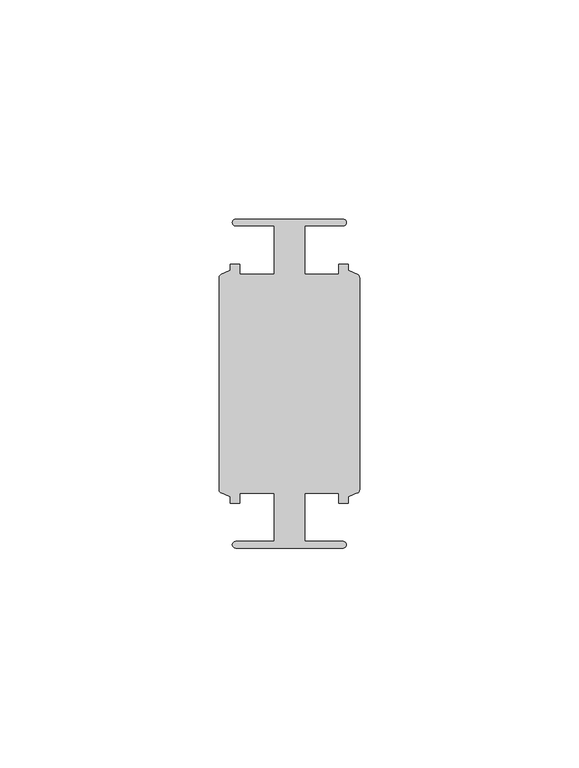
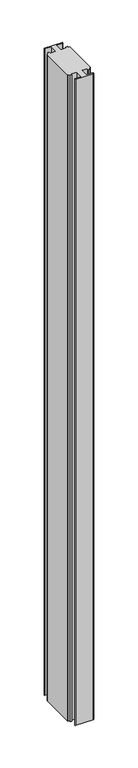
"""IFC4 building model written with IfcOpenShell, lengths in millimetres: member geometry, Прямоугольный импост : 4-AMG-2-Профиль 26Х75 Средний."""

from ifc_helpers import new_model, si_unit, point, frame, frame_2d, origin, place, context, project, spatial, polyline, circle_curve, trimmed, segment, composite_curve, outline, extrude, source, transform, mapped, element, save


def member_6ae3acd9(model_context):
    return source(origin(), model_context, "Body", "SweptSolid", [
        extrude(outline(composite_curve([segment(trimmed(circle_curve(frame_2d((12.2876562, 36.75)), 0.75), [point((12.2876562, 37.5))], [point((12.2876562, 36.0))], False, "CARTESIAN"), True, "CONTINUOUS"), segment(polyline([(12.2876562, 36.0), (3.5376562, 36.0), (3.5376562, 25.0), (11.2593767, 25.0), (11.2593767, 27.25), (13.4846403, 27.25), (13.4846403, 25.836597), (15.5572539, 24.9333875)]), True, "CONTINUOUS"), segment(trimmed(circle_curve(frame_2d((15.2376562, 24.2)), 0.8), [point((15.5572539, 24.9333875))], [point((16.0376562, 24.2))], False, "CARTESIAN"), True, "CONTINUOUS"), segment(polyline([(16.0376562, 24.2), (16.0376562, -24.2)]), True, "CONTINUOUS"), segment(trimmed(circle_curve(frame_2d((15.2376562, -24.2)), 0.8), [point((16.0376562, -24.2))], [point((15.5572539, -24.9333875))], False, "CARTESIAN"), True, "CONTINUOUS"), segment(polyline([(15.5572539, -24.9333875), (13.4846403, -25.836597), (13.4846403, -27.25), (11.2593767, -27.25), (11.2593767, -24.9914758), (3.5376562, -24.9914758), (3.5376562, -36.0), (12.2876562, -36.0)]), True, "CONTINUOUS"), segment(trimmed(circle_curve(frame_2d((12.2876562, -36.75)), 0.75), [point((12.2876562, -36.0))], [point((12.2876562, -37.5))], False, "CARTESIAN"), True, "CONTINUOUS"), segment(polyline([(12.2876562, -37.5), (-12.2123438, -37.5)]), True, "CONTINUOUS"), segment(trimmed(circle_curve(frame_2d((-12.2123438, -36.75)), 0.75), [point((-12.2123438, -37.5))], [point((-12.2123438, -36.0))], False, "CARTESIAN"), True, "CONTINUOUS"), segment(polyline([(-12.2123438, -36.0), (-3.4623438, -36.0), (-3.4623438, -24.9913353), (-11.2593767, -24.9913353), (-11.2593767, -27.25), (-13.4093278, -27.25), (-13.4093278, -25.836597), (-15.4819415, -24.9333875)]), True, "CONTINUOUS"), segment(trimmed(circle_curve(frame_2d((-15.1623438, -24.2)), 0.8), [point((-15.4819415, -24.9333875))], [point((-15.9623438, -24.2))], False, "CARTESIAN"), True, "CONTINUOUS"), segment(polyline([(-15.9623438, -24.2), (-15.9623438, 24.2)]), True, "CONTINUOUS"), segment(trimmed(circle_curve(frame_2d((-15.1623438, 24.2)), 0.8), [point((-15.9623438, 24.2))], [point((-15.4819415, 24.9333875))], False, "CARTESIAN"), True, "CONTINUOUS"), segment(polyline([(-15.4819415, 24.9333875), (-13.4093278, 25.836597), (-13.4093278, 27.25), (-11.2593767, 27.25), (-11.2593767, 25.0), (-3.4623438, 25.0), (-3.4623438, 36.0), (-12.2123438, 36.0)]), True, "CONTINUOUS"), segment(trimmed(circle_curve(frame_2d((-12.2123438, 36.75)), 0.75), [point((-12.2123438, 36.0))], [point((-12.2123438, 37.5))], False, "CARTESIAN"), True, "CONTINUOUS"), segment(polyline([(-12.2123438, 37.5), (12.2876562, 37.5)]), True, "CONTINUOUS")], self_intersect=False)), frame((0.0, 0.0, -947.5011211), z_axis=(0.0, 0.0, 1.0), x_axis=(1.0, 0.0, 0.0)), (0.0, 0.0, 1.0), 947.5011211),
    ])


if __name__ == "__main__":
    model = new_model("IFC4")
    model_context = context("Model", 3, world=origin())
    ifc_project = project(units=[si_unit("LENGTHUNIT", "METRE", prefix="MILLI")], contexts=[model_context])
    site = spatial("IfcSite", under=ifc_project)
    building = spatial("IfcBuilding", under=site)
    placement = place(None, origin())
    member_shape = member_6ae3acd9(model_context)
    element("IfcMember", 1, ObjectType="Прямоугольный импост : 4-AMG-2-Профиль 26Х75 Средний", at=placement, inside=building, context=model_context, shape_type="MappedRepresentation", body=[
        mapped(member_shape, transform((0.0, 0.0, 0.0), x_axis=(1.0, 0.0, 0.0), y_axis=(0.0, 1.0, 0.0), z_axis=(0.0, 0.0, 1.0))),
    ])
    save(model, "model.ifc")
